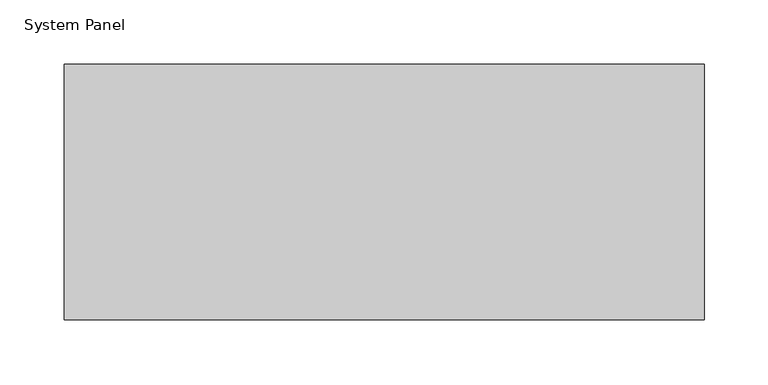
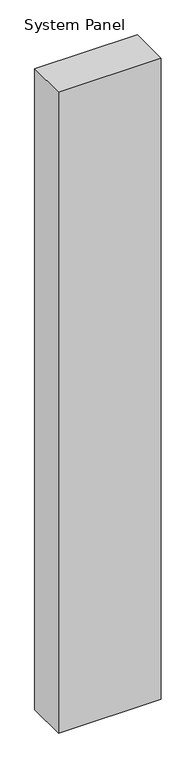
"""IFC4 building model written with IfcOpenShell, lengths in millimetres: plate geometry, System Panel : MetecnoPanel_200mm_Plain_Surfmist."""

from ifc_helpers import new_model, si_unit, origin, origin_with_axes, place, context, project, spatial, polyline, outline, extrude, source, transform, mapped, element, save


def system_panel_2bcd8dc4(model_context):
    return source(origin(), model_context, "Body", "SweptSolid", [
        extrude(outline(polyline([(250.0, 0.0), (-250.0, 0.0), (-250.0, 200.0), (250.0, 200.0), (250.0, 0.0)])), origin_with_axes(), (0.0, 0.0, 1.0), 3300.0),
    ])


if __name__ == "__main__":
    model = new_model("IFC4")
    model_context = context("Model", 3, world=origin())
    ifc_project = project(units=[si_unit("LENGTHUNIT", "METRE", prefix="MILLI")], contexts=[model_context])
    site = spatial("IfcSite", under=ifc_project)
    building = spatial("IfcBuilding", under=site)
    placement = place(None, origin())
    system_panel_shape = system_panel_2bcd8dc4(model_context)
    element("IfcPlate", 1, ObjectType="System Panel : MetecnoPanel_200mm_Plain_Surfmist", at=placement, inside=building, context=model_context, shape_type="MappedRepresentation", body=[
        mapped(system_panel_shape, transform((0.0, 0.0, 0.0), x_axis=(1.0, 0.0, 0.0), y_axis=(0.0, 1.0, 0.0), z_axis=(0.0, 0.0, 1.0))),
    ])
    save(model, "model.ifc")
